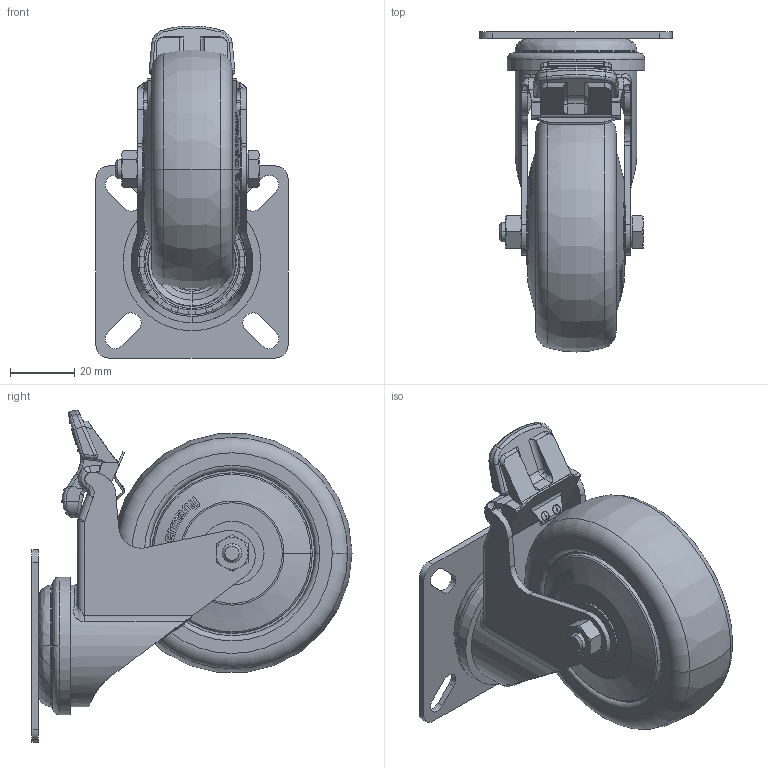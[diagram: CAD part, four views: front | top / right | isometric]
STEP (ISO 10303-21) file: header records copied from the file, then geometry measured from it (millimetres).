
FILE_DESCRIPTION (( 'STEP AP214' ), '1' );
FILE_NAME ('LPXA-TPA_75KD-FI-FK_754838-214.step', '2012-10-13T09:41:19', ( 'Matthias Senn' ), ( 'Blickle Räder+Rollen' ), 'SwSTEP 2.0', 'SolidWorks 2010', '' );
FILE_SCHEMA (( 'AUTOMOTIVE_DESIGN' ));
Length unit declared in the file: millimetre
Products named in the file (4): TPA-K-FK_G15_TPA_75_6KD-FK; GH-LPXA_075-FI_G15; AM_LRXA_08x30_G_G15; LPXA-TPA_75KD-FI-FK_754838-214
Assembly tree (3 placements, depth 2):
  LPXA-TPA_75KD-FI-FK_754838-214
    GH-LPXA_075-FI_G15
    AM_LRXA_08x30_G_G15
    TPA-K-FK_G15_TPA_75_6KD-FK
Bounding box: 60 x 100 x 103.72 mm (x, y, z)
Volume: 149236.9 mm3; surface area: 42103.6 mm2
Topology: 3 solids, 3 shells, 1696 faces, 4524 edges, 2908 vertices
Faces by surface type: plane 783, bspline 508, cylinder 278, cone 101, torus 26
Entity records: 99984 total; most frequent: CARTESIAN_POINT 44335, ORIENTED_EDGE 8980, DIRECTION 5569, EDGE_CURVE 4490, VERTEX_POINT 2908, LINE 1905, VECTOR 1905, AXIS2_PLACEMENT_3D 1832
